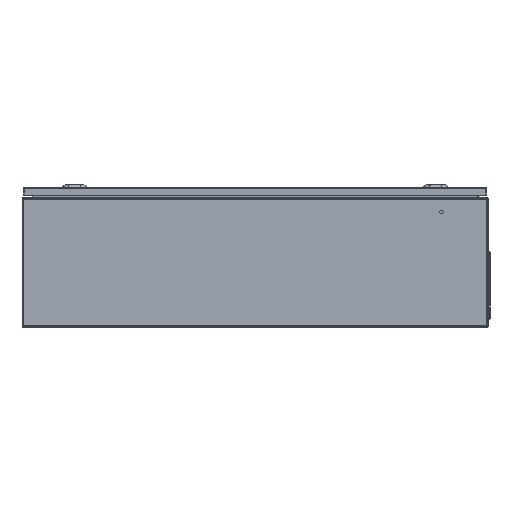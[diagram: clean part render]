
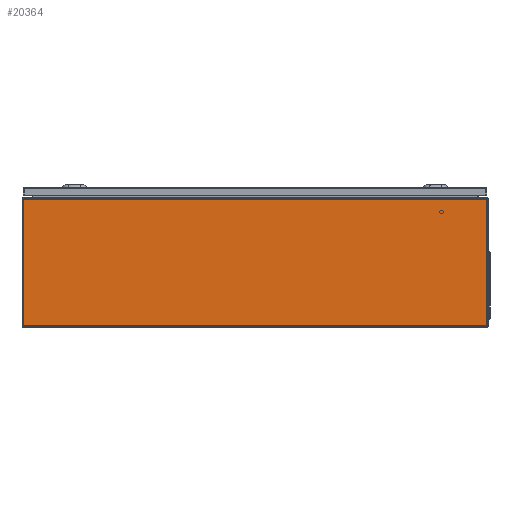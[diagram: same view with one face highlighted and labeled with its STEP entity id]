
A CAD part, left-side view. The second image highlights one B-rep face of the part: STEP entity #20364.
In plain terms, the highlighted planar face has unit normal (-1, 0, 0).
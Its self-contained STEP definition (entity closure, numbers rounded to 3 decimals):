
#49 = VERTEX_POINT ( 'NONE', #10534 ) ;
#1094 = DIRECTION ( 'NONE',  ( 1., 0., 0. ) ) ;
#1709 = LINE ( 'NONE', #16301, #11291 ) ;
#2411 = LINE ( 'NONE', #17798, #9564 ) ;
#2503 = ORIENTED_EDGE ( 'NONE', *, *, #17745, .T. ) ;
#2787 = PLANE ( 'NONE',  #3180 ) ;
#3180 = AXIS2_PLACEMENT_3D ( 'NONE', #17670, #1094, #20149 ) ;
#3997 = CARTESIAN_POINT ( 'NONE',  ( -300., -497.5, 274.5 ) ) ;
#4555 = VERTEX_POINT ( 'NONE', #3997 ) ;
#5523 = CARTESIAN_POINT ( 'NONE',  ( -300., -497.5, 2.35 ) ) ;
#6982 = VERTEX_POINT ( 'NONE', #5523 ) ;
#7040 = CARTESIAN_POINT ( 'NONE',  ( -300., 497.5, 2.35 ) ) ;
#8996 = LINE ( 'NONE', #13450, #15466 ) ;
#9564 = VECTOR ( 'NONE', #19225, 1000. ) ;
#10534 = CARTESIAN_POINT ( 'NONE',  ( -300., 497.5, 274.5 ) ) ;
#11291 = VECTOR ( 'NONE', #12297, 1000. ) ;
#11467 = LINE ( 'NONE', #18121, #25259 ) ;
#11672 = ORIENTED_EDGE ( 'NONE', *, *, #26197, .T. ) ;
#12297 = DIRECTION ( 'NONE',  ( 0., -1., 0. ) ) ;
#13450 = CARTESIAN_POINT ( 'NONE',  ( -300., 500., 274.5 ) ) ;
#15466 = VECTOR ( 'NONE', #17495, 1000. ) ;
#16073 = VERTEX_POINT ( 'NONE', #7040 ) ;
#16301 = CARTESIAN_POINT ( 'NONE',  ( -300., -500., 2.35 ) ) ;
#17105 = ORIENTED_EDGE ( 'NONE', *, *, #20752, .F. ) ;
#17495 = DIRECTION ( 'NONE',  ( 0., -1., 0. ) ) ;
#17670 = CARTESIAN_POINT ( 'NONE',  ( -300., -500., 1.5 ) ) ;
#17745 = EDGE_CURVE ( 'NONE', #49, #16073, #11467, .T. ) ;
#17798 = CARTESIAN_POINT ( 'NONE',  ( -300., -497.5, 1.5 ) ) ;
#18121 = CARTESIAN_POINT ( 'NONE',  ( -300., 497.5, 1.5 ) ) ;
#19225 = DIRECTION ( 'NONE',  ( 0., 0., 1. ) ) ;
#19541 = ORIENTED_EDGE ( 'NONE', *, *, #23623, .T. ) ;
#20149 = DIRECTION ( 'NONE',  ( 0., 0., -1. ) ) ;
#20364 = ADVANCED_FACE ( 'NONE', ( #21852 ), #2787, .F. ) ;
#20752 = EDGE_CURVE ( 'NONE', #49, #4555, #8996, .T. ) ;
#21852 = FACE_OUTER_BOUND ( 'NONE', #21885, .T. ) ;
#21885 = EDGE_LOOP ( 'NONE', ( #2503, #19541, #11672, #17105 ) ) ;
#23623 = EDGE_CURVE ( 'NONE', #16073, #6982, #1709, .T. ) ;
#25259 = VECTOR ( 'NONE', #26627, 1000. ) ;
#26197 = EDGE_CURVE ( 'NONE', #6982, #4555, #2411, .T. ) ;
#26627 = DIRECTION ( 'NONE',  ( 0., 0., -1. ) ) ;
